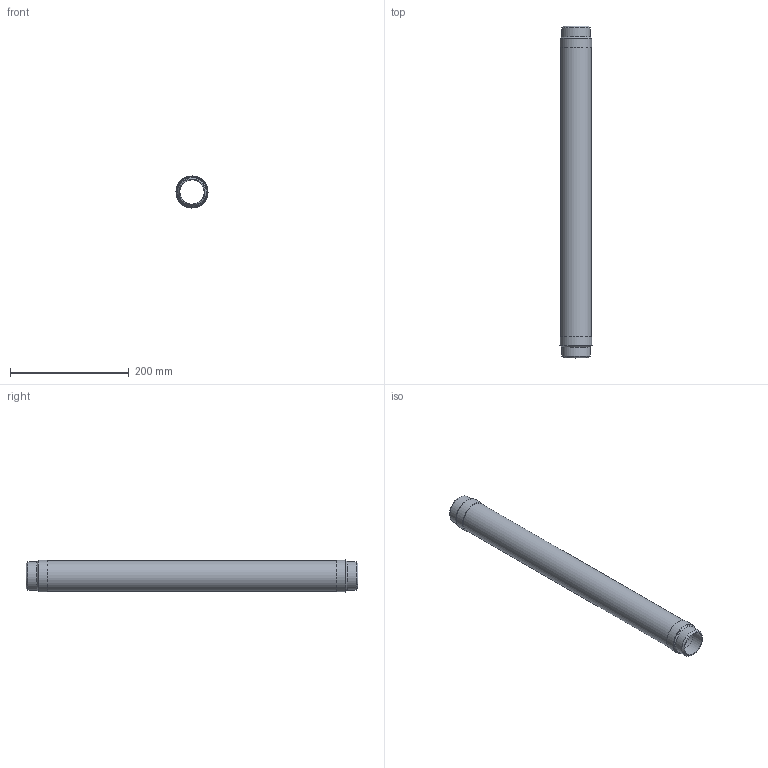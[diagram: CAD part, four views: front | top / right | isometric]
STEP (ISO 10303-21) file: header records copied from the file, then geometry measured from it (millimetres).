
FILE_DESCRIPTION(/* description */ (''),/* implementation_level */ '2;1');
FILE_NAME(/* name */ 'C:\001_Work\Designs\CSAWN\CSAWN-1.5x22.stp',/* time_stamp */ '2016-06-04T17:18:52-04:00',/* author */ ('rramoutar'),/* organization */ ('Mason Industries Inc.'),/* preprocessor_version */ 'ST-DEVELOPER v15.6',/* originating_system */ 'Autodesk Inventor 2015',/* authorisation */ '');
FILE_SCHEMA (('CONFIG_CONTROL_DESIGN'));
Length unit declared in the file: inch
Products named in the file (1): CSAWN-1.5x22
Bounding box: 53.88 x 558.8 x 53.88 mm (x, y, z)
Volume: 57926.4 mm3; surface area: 192249.2 mm2
Topology: 5 solids, 5 shells, 24 faces, 40 edges, 26 vertices
Faces by surface type: cylinder 10, plane 10, cone 4
Full cylindrical faces by diameter (mm): 40.894 x2, 48.514 x2, 50.8 x1, 51.511 x3, 53.892 x2
Entity records: 564 total; most frequent: DIRECTION 98, CARTESIAN_POINT 73, AXIS2_PLACEMENT_3D 49, EDGE_LOOP 48, ORIENTED_EDGE 48, STYLED_ITEM 29, FACE_BOUND 24, FACE_OUTER_BOUND 24
